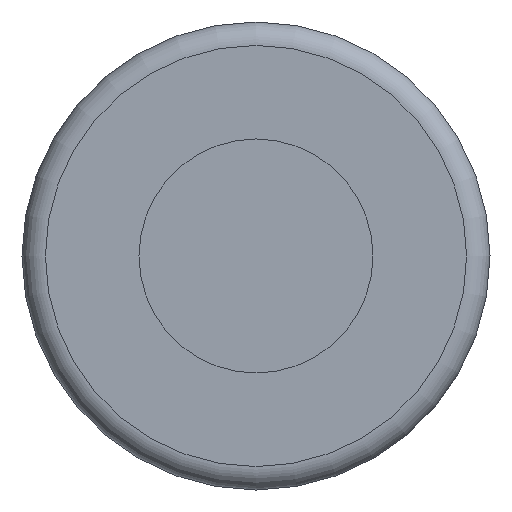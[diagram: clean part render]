
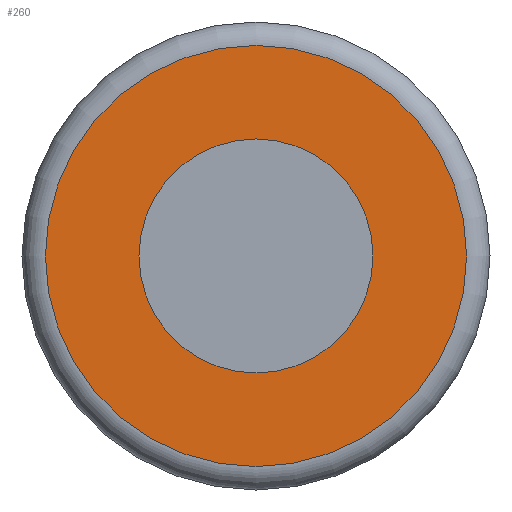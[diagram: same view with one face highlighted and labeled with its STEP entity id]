
A CAD part, left-side view. The second image highlights one B-rep face of the part: STEP entity #260.
In plain terms, the highlighted planar face has unit normal (-1, 0, 0).
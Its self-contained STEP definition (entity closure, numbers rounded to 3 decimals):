
#209=CARTESIAN_POINT('',(150.0,9.0,0.));
#210=VERTEX_POINT('',#209);
#211=CARTESIAN_POINT('',(150.0,0.0,0.0));
#212=DIRECTION('',(1.0,0.0,0.0));
#213=DIRECTION('',(0.0,-1.0,0.0));
#214=AXIS2_PLACEMENT_3D('',#211,#212,#213);
#215=CIRCLE('',#214,9.0);
#216=EDGE_CURVE('',#210,#210,#215,.T.);
#241=CARTESIAN_POINT('',(150.0,0.0,0.0));
#242=DIRECTION('',(-1.0,0.0,0.0));
#243=DIRECTION('',(0.0,0.0,1.0));
#244=AXIS2_PLACEMENT_3D('',#241,#242,#243);
#245=PLANE('',#244);
#246=ORIENTED_EDGE('',*,*,#216,.F.);
#247=EDGE_LOOP('',(#246));
#248=FACE_OUTER_BOUND('',#247,.T.);
#249=CARTESIAN_POINT('',(150.0,5.0,0.));
#250=VERTEX_POINT('',#249);
#251=CARTESIAN_POINT('',(150.0,0.0,0.0));
#252=DIRECTION('',(1.0,0.0,0.0));
#253=DIRECTION('',(0.0,-1.0,0.0));
#254=AXIS2_PLACEMENT_3D('',#251,#252,#253);
#255=CIRCLE('',#254,5.0);
#256=EDGE_CURVE('',#250,#250,#255,.T.);
#257=ORIENTED_EDGE('',*,*,#256,.T.);
#258=EDGE_LOOP('',(#257));
#259=FACE_BOUND('',#258,.T.);
#260=ADVANCED_FACE('',(#248,#259),#245,.T.);
